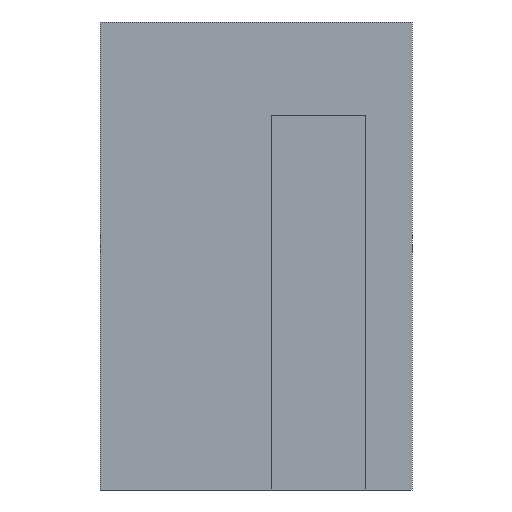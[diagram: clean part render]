
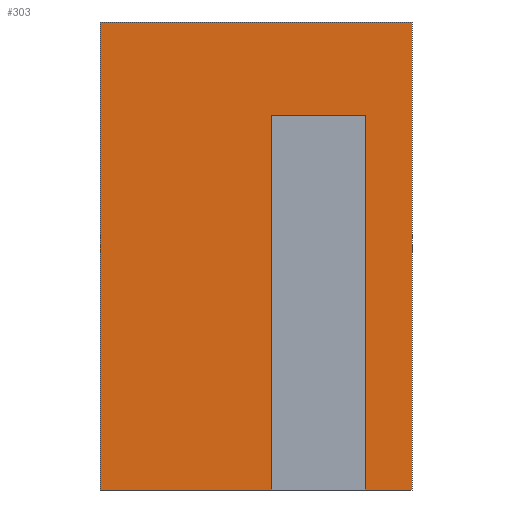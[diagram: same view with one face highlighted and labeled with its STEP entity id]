
A CAD part, left-side view. The second image highlights one B-rep face of the part: STEP entity #303.
In plain terms, the highlighted planar face has unit normal (-1, 0, 0).
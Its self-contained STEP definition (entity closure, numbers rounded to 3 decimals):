
#22 = VERTEX_POINT('',#23);
#23 = CARTESIAN_POINT('',(117.,-166.,15.));
#32 = PLANE('',#33);
#33 = AXIS2_PLACEMENT_3D('',#34,#35,#36);
#34 = CARTESIAN_POINT('',(108.9,-180.,15.));
#35 = DIRECTION('',(0.,0.,1.));
#36 = DIRECTION('',(1.,0.,-0.));
#44 = PLANE('',#45);
#45 = AXIS2_PLACEMENT_3D('',#46,#47,#48);
#46 = CARTESIAN_POINT('',(108.9,-166.,0.));
#47 = DIRECTION('',(-0.,1.,0.));
#48 = DIRECTION('',(0.,0.,1.));
#56 = EDGE_CURVE('',#57,#22,#59,.T.);
#57 = VERTEX_POINT('',#58);
#58 = CARTESIAN_POINT('',(117.,-176.,15.));
#59 = SURFACE_CURVE('',#60,(#64,#70),.PCURVE_S1.);
#60 = LINE('',#61,#62);
#61 = CARTESIAN_POINT('',(117.,-190.,15.));
#62 = VECTOR('',#63,1.);
#63 = DIRECTION('',(-0.,1.,0.));
#64 = PCURVE('',#32,#65);
#65 = DEFINITIONAL_REPRESENTATION('',(#66),#69);
#66 = B_SPLINE_CURVE_WITH_KNOTS('',1,(#67,#68),.UNSPECIFIED.,.F.,.F.,(2,
    2),(11.9,24.),.PIECEWISE_BEZIER_KNOTS.);
#67 = CARTESIAN_POINT('',(8.1,1.9));
#68 = CARTESIAN_POINT('',(8.1,14.));
#69 = ( GEOMETRIC_REPRESENTATION_CONTEXT(2) 
PARAMETRIC_REPRESENTATION_CONTEXT() REPRESENTATION_CONTEXT('2D SPACE',''
  ) );
#70 = PCURVE('',#71,#76);
#71 = PLANE('',#72);
#72 = AXIS2_PLACEMENT_3D('',#73,#74,#75);
#73 = CARTESIAN_POINT('',(117.,-200.,1.));
#74 = DIRECTION('',(1.,0.,-0.));
#75 = DIRECTION('',(0.,0.,1.));
#76 = DEFINITIONAL_REPRESENTATION('',(#77),#80);
#77 = B_SPLINE_CURVE_WITH_KNOTS('',1,(#78,#79),.UNSPECIFIED.,.F.,.F.,(2,
    2),(11.9,24.),.PIECEWISE_BEZIER_KNOTS.);
#78 = CARTESIAN_POINT('',(14.,-21.9));
#79 = CARTESIAN_POINT('',(14.,-34.));
#80 = ( GEOMETRIC_REPRESENTATION_CONTEXT(2) 
PARAMETRIC_REPRESENTATION_CONTEXT() REPRESENTATION_CONTEXT('2D SPACE',''
  ) );
#97 = PLANE('',#98);
#98 = AXIS2_PLACEMENT_3D('',#99,#100,#101);
#99 = CARTESIAN_POINT('',(-192.,-176.,2.));
#100 = DIRECTION('',(0.,1.,0.));
#101 = DIRECTION('',(1.,0.,0.));
#138 = VERTEX_POINT('',#139);
#139 = CARTESIAN_POINT('',(117.,-166.,0.));
#155 = PLANE('',#156);
#156 = AXIS2_PLACEMENT_3D('',#157,#158,#159);
#157 = CARTESIAN_POINT('',(108.9,-180.,0.));
#158 = DIRECTION('',(0.,0.,1.));
#159 = DIRECTION('',(1.,0.,-0.));
#167 = EDGE_CURVE('',#22,#138,#168,.T.);
#168 = SURFACE_CURVE('',#169,(#173,#179),.PCURVE_S1.);
#169 = LINE('',#170,#171);
#170 = CARTESIAN_POINT('',(117.,-166.,0.5));
#171 = VECTOR('',#172,1.);
#172 = DIRECTION('',(-0.,0.,-1.));
#173 = PCURVE('',#44,#174);
#174 = DEFINITIONAL_REPRESENTATION('',(#175),#178);
#175 = B_SPLINE_CURVE_WITH_KNOTS('',1,(#176,#177),.UNSPECIFIED.,.F.,.F.,
  (2,2),(-14.5,0.5),.PIECEWISE_BEZIER_KNOTS.);
#176 = CARTESIAN_POINT('',(15.,8.1));
#177 = CARTESIAN_POINT('',(0.,8.1));
#178 = ( GEOMETRIC_REPRESENTATION_CONTEXT(2) 
PARAMETRIC_REPRESENTATION_CONTEXT() REPRESENTATION_CONTEXT('2D SPACE',''
  ) );
#179 = PCURVE('',#71,#180);
#180 = DEFINITIONAL_REPRESENTATION('',(#181),#184);
#181 = B_SPLINE_CURVE_WITH_KNOTS('',1,(#182,#183),.UNSPECIFIED.,.F.,.F.,
  (2,2),(-14.5,0.5),.PIECEWISE_BEZIER_KNOTS.);
#182 = CARTESIAN_POINT('',(14.,-34.));
#183 = CARTESIAN_POINT('',(-1.,-34.));
#184 = ( GEOMETRIC_REPRESENTATION_CONTEXT(2) 
PARAMETRIC_REPRESENTATION_CONTEXT() REPRESENTATION_CONTEXT('2D SPACE',''
  ) );
#260 = VERTEX_POINT('',#261);
#261 = CARTESIAN_POINT('',(117.,-176.,0.));
#282 = EDGE_CURVE('',#260,#57,#283,.T.);
#283 = SURFACE_CURVE('',#284,(#288,#295),.PCURVE_S1.);
#284 = LINE('',#285,#286);
#285 = CARTESIAN_POINT('',(117.,-176.,0.));
#286 = VECTOR('',#287,1.);
#287 = DIRECTION('',(0.,0.,1.));
#288 = PCURVE('',#97,#289);
#289 = DEFINITIONAL_REPRESENTATION('',(#290),#294);
#290 = LINE('',#291,#292);
#291 = CARTESIAN_POINT('',(309.,2.));
#292 = VECTOR('',#293,1.);
#293 = DIRECTION('',(0.,-1.));
#294 = ( GEOMETRIC_REPRESENTATION_CONTEXT(2) 
PARAMETRIC_REPRESENTATION_CONTEXT() REPRESENTATION_CONTEXT('2D SPACE',''
  ) );
#295 = PCURVE('',#71,#296);
#296 = DEFINITIONAL_REPRESENTATION('',(#297),#301);
#297 = LINE('',#298,#299);
#298 = CARTESIAN_POINT('',(-1.,-24.));
#299 = VECTOR('',#300,1.);
#300 = DIRECTION('',(1.,0.));
#301 = ( GEOMETRIC_REPRESENTATION_CONTEXT(2) 
PARAMETRIC_REPRESENTATION_CONTEXT() REPRESENTATION_CONTEXT('2D SPACE',''
  ) );
#303 = ADVANCED_FACE('',(#304),#71,.F.);
#304 = FACE_BOUND('',#305,.F.);
#305 = EDGE_LOOP('',(#306,#307,#308,#331,#359,#387,#415,#436));
#306 = ORIENTED_EDGE('',*,*,#56,.F.);
#307 = ORIENTED_EDGE('',*,*,#282,.F.);
#308 = ORIENTED_EDGE('',*,*,#309,.F.);
#309 = EDGE_CURVE('',#310,#260,#312,.T.);
#310 = VERTEX_POINT('',#311);
#311 = CARTESIAN_POINT('',(117.,-174.5,0.));
#312 = SURFACE_CURVE('',#313,(#317,#324),.PCURVE_S1.);
#313 = LINE('',#314,#315);
#314 = CARTESIAN_POINT('',(117.,-100.,0.));
#315 = VECTOR('',#316,1.);
#316 = DIRECTION('',(0.,-1.,0.));
#317 = PCURVE('',#71,#318);
#318 = DEFINITIONAL_REPRESENTATION('',(#319),#323);
#319 = LINE('',#320,#321);
#320 = CARTESIAN_POINT('',(-1.,-100.));
#321 = VECTOR('',#322,1.);
#322 = DIRECTION('',(0.,1.));
#323 = ( GEOMETRIC_REPRESENTATION_CONTEXT(2) 
PARAMETRIC_REPRESENTATION_CONTEXT() REPRESENTATION_CONTEXT('2D SPACE',''
  ) );
#324 = PCURVE('',#155,#325);
#325 = DEFINITIONAL_REPRESENTATION('',(#326),#330);
#326 = LINE('',#327,#328);
#327 = CARTESIAN_POINT('',(8.1,80.));
#328 = VECTOR('',#329,1.);
#329 = DIRECTION('',(0.,-1.));
#330 = ( GEOMETRIC_REPRESENTATION_CONTEXT(2) 
PARAMETRIC_REPRESENTATION_CONTEXT() REPRESENTATION_CONTEXT('2D SPACE',''
  ) );
#331 = ORIENTED_EDGE('',*,*,#332,.F.);
#332 = EDGE_CURVE('',#333,#310,#335,.T.);
#333 = VERTEX_POINT('',#334);
#334 = CARTESIAN_POINT('',(117.,-174.5,12.));
#335 = SURFACE_CURVE('',#336,(#340,#347),.PCURVE_S1.);
#336 = LINE('',#337,#338);
#337 = CARTESIAN_POINT('',(117.,-174.5,12.));
#338 = VECTOR('',#339,1.);
#339 = DIRECTION('',(0.,0.,-1.));
#340 = PCURVE('',#71,#341);
#341 = DEFINITIONAL_REPRESENTATION('',(#342),#346);
#342 = LINE('',#343,#344);
#343 = CARTESIAN_POINT('',(11.,-25.5));
#344 = VECTOR('',#345,1.);
#345 = DIRECTION('',(-1.,0.));
#346 = ( GEOMETRIC_REPRESENTATION_CONTEXT(2) 
PARAMETRIC_REPRESENTATION_CONTEXT() REPRESENTATION_CONTEXT('2D SPACE',''
  ) );
#347 = PCURVE('',#348,#353);
#348 = PLANE('',#349);
#349 = AXIS2_PLACEMENT_3D('',#350,#351,#352);
#350 = CARTESIAN_POINT('',(109.,-174.5,3.));
#351 = DIRECTION('',(-0.,1.,0.));
#352 = DIRECTION('',(0.,0.,1.));
#353 = DEFINITIONAL_REPRESENTATION('',(#354),#358);
#354 = LINE('',#355,#356);
#355 = CARTESIAN_POINT('',(9.,8.));
#356 = VECTOR('',#357,1.);
#357 = DIRECTION('',(-1.,0.));
#358 = ( GEOMETRIC_REPRESENTATION_CONTEXT(2) 
PARAMETRIC_REPRESENTATION_CONTEXT() REPRESENTATION_CONTEXT('2D SPACE',''
  ) );
#359 = ORIENTED_EDGE('',*,*,#360,.F.);
#360 = EDGE_CURVE('',#361,#333,#363,.T.);
#361 = VERTEX_POINT('',#362);
#362 = CARTESIAN_POINT('',(117.,-171.5,12.));
#363 = SURFACE_CURVE('',#364,(#368,#375),.PCURVE_S1.);
#364 = LINE('',#365,#366);
#365 = CARTESIAN_POINT('',(117.,-187.25,12.));
#366 = VECTOR('',#367,1.);
#367 = DIRECTION('',(0.,-1.,0.));
#368 = PCURVE('',#71,#369);
#369 = DEFINITIONAL_REPRESENTATION('',(#370),#374);
#370 = LINE('',#371,#372);
#371 = CARTESIAN_POINT('',(11.,-12.75));
#372 = VECTOR('',#373,1.);
#373 = DIRECTION('',(0.,1.));
#374 = ( GEOMETRIC_REPRESENTATION_CONTEXT(2) 
PARAMETRIC_REPRESENTATION_CONTEXT() REPRESENTATION_CONTEXT('2D SPACE',''
  ) );
#375 = PCURVE('',#376,#381);
#376 = PLANE('',#377);
#377 = AXIS2_PLACEMENT_3D('',#378,#379,#380);
#378 = CARTESIAN_POINT('',(109.,-174.5,12.));
#379 = DIRECTION('',(0.,0.,1.));
#380 = DIRECTION('',(1.,0.,-0.));
#381 = DEFINITIONAL_REPRESENTATION('',(#382),#386);
#382 = LINE('',#383,#384);
#383 = CARTESIAN_POINT('',(8.,-12.75));
#384 = VECTOR('',#385,1.);
#385 = DIRECTION('',(0.,-1.));
#386 = ( GEOMETRIC_REPRESENTATION_CONTEXT(2) 
PARAMETRIC_REPRESENTATION_CONTEXT() REPRESENTATION_CONTEXT('2D SPACE',''
  ) );
#387 = ORIENTED_EDGE('',*,*,#388,.F.);
#388 = EDGE_CURVE('',#389,#361,#391,.T.);
#389 = VERTEX_POINT('',#390);
#390 = CARTESIAN_POINT('',(117.,-171.5,0.));
#391 = SURFACE_CURVE('',#392,(#396,#403),.PCURVE_S1.);
#392 = LINE('',#393,#394);
#393 = CARTESIAN_POINT('',(117.,-171.5,0.));
#394 = VECTOR('',#395,1.);
#395 = DIRECTION('',(0.,0.,1.));
#396 = PCURVE('',#71,#397);
#397 = DEFINITIONAL_REPRESENTATION('',(#398),#402);
#398 = LINE('',#399,#400);
#399 = CARTESIAN_POINT('',(-1.,-28.5));
#400 = VECTOR('',#401,1.);
#401 = DIRECTION('',(1.,0.));
#402 = ( GEOMETRIC_REPRESENTATION_CONTEXT(2) 
PARAMETRIC_REPRESENTATION_CONTEXT() REPRESENTATION_CONTEXT('2D SPACE',''
  ) );
#403 = PCURVE('',#404,#409);
#404 = PLANE('',#405);
#405 = AXIS2_PLACEMENT_3D('',#406,#407,#408);
#406 = CARTESIAN_POINT('',(109.,-171.5,2.));
#407 = DIRECTION('',(-0.,1.,0.));
#408 = DIRECTION('',(0.,0.,1.));
#409 = DEFINITIONAL_REPRESENTATION('',(#410),#414);
#410 = LINE('',#411,#412);
#411 = CARTESIAN_POINT('',(-2.,8.));
#412 = VECTOR('',#413,1.);
#413 = DIRECTION('',(1.,0.));
#414 = ( GEOMETRIC_REPRESENTATION_CONTEXT(2) 
PARAMETRIC_REPRESENTATION_CONTEXT() REPRESENTATION_CONTEXT('2D SPACE',''
  ) );
#415 = ORIENTED_EDGE('',*,*,#416,.F.);
#416 = EDGE_CURVE('',#138,#389,#417,.T.);
#417 = SURFACE_CURVE('',#418,(#422,#429),.PCURVE_S1.);
#418 = LINE('',#419,#420);
#419 = CARTESIAN_POINT('',(117.,-100.,0.));
#420 = VECTOR('',#421,1.);
#421 = DIRECTION('',(0.,-1.,0.));
#422 = PCURVE('',#71,#423);
#423 = DEFINITIONAL_REPRESENTATION('',(#424),#428);
#424 = LINE('',#425,#426);
#425 = CARTESIAN_POINT('',(-1.,-100.));
#426 = VECTOR('',#427,1.);
#427 = DIRECTION('',(0.,1.));
#428 = ( GEOMETRIC_REPRESENTATION_CONTEXT(2) 
PARAMETRIC_REPRESENTATION_CONTEXT() REPRESENTATION_CONTEXT('2D SPACE',''
  ) );
#429 = PCURVE('',#155,#430);
#430 = DEFINITIONAL_REPRESENTATION('',(#431),#435);
#431 = LINE('',#432,#433);
#432 = CARTESIAN_POINT('',(8.1,80.));
#433 = VECTOR('',#434,1.);
#434 = DIRECTION('',(0.,-1.));
#435 = ( GEOMETRIC_REPRESENTATION_CONTEXT(2) 
PARAMETRIC_REPRESENTATION_CONTEXT() REPRESENTATION_CONTEXT('2D SPACE',''
  ) );
#436 = ORIENTED_EDGE('',*,*,#167,.F.);
